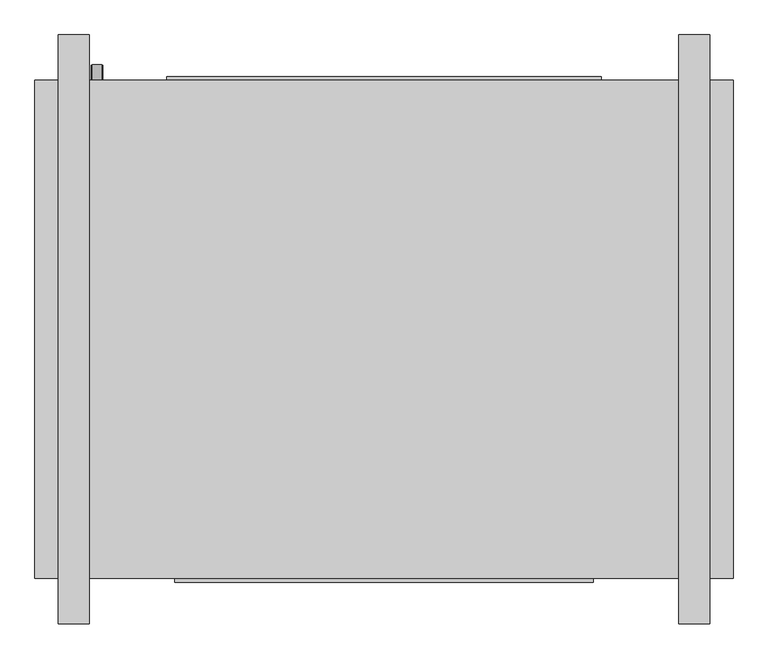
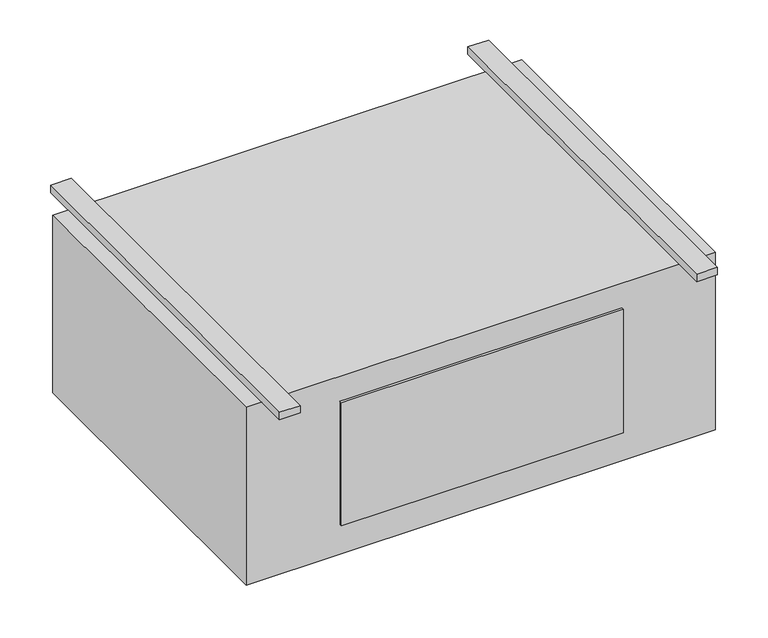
"""IFC4 building model written with IfcOpenShell, lengths in millimetres: proxy geometry, Exposed_High_Capacity_Horizontal_Cabinet_Fan_Coil_Unit_-_42DFA_-_CARRIER_-_4-Pipe_LH_2022 : Size 12 - 277v/60Hz/1Ph - 6/2 Coil."""

import ifcopenshell
import ifcopenshell.guid

model = None  # the IFC model being written
_history = None  # IfcOwnerHistory: only IFC2X3 demands one
_inside = {}  # id of a spatial element -> (the spatial element, [elements in it])
_under = {}  # id of a project, library or spatial element -> (it, [spatial elements below it])
_declared = {}  # id of a project -> (the project, [libraries it declares])
_typed = {}  # id of a type object -> (the type object, [elements of that type])
_made_of = {}  # id of a material, layer set ... -> (it, [elements and type objects made of it])


def new_model(schema):
    """Start an empty IFC model of exactly this schema.

    Asked for "IFC4X3", IfcOpenShell would pick the latest addendum, in which some entities
    have other attributes; the version numbers below select the first issue.
    IFC2X3 requires an IfcOwnerHistory on every rooted entity: one is made here for all.
    """
    global model, _history
    if schema == "IFC4X3":
        model = ifcopenshell.file(schema_version=(4, 3, 0, 0))
    else:
        model = ifcopenshell.file(schema=schema)
    _inside.clear()
    _under.clear()
    _declared.clear()
    _typed.clear()
    _made_of.clear()
    _history = None
    if model.schema == "IFC2X3":
        org = make("IfcOrganization", Name="unknown")
        user = make(
            "IfcPersonAndOrganization",
            ThePerson=make("IfcPerson", FamilyName="unknown"),
            TheOrganization=org,
        )
        app = make(
            "IfcApplication",
            ApplicationDeveloper=org,
            Version="unknown",
            ApplicationFullName="unknown",
            ApplicationIdentifier="unknown",
        )
        _history = make(
            "IfcOwnerHistory",
            OwningUser=user,
            OwningApplication=app,
            ChangeAction="ADDED",
            CreationDate=0,
        )
    return model


def make(cls, **values):
    """One entity of the class cls with the attributes given. An attribute that is None is left unset."""
    return model.create_entity(
        cls, **{name: value for name, value in values.items() if value is not None}
    )


def rooted(cls, **values):
    """An entity with a GlobalId (a new one), such as an element, a storey or a relation."""
    return make(cls, GlobalId=ifcopenshell.guid.new(), OwnerHistory=_history, **values)


def si_unit(unit_type, name, prefix=None):
    """IfcSIUnit, for example si_unit("LENGTHUNIT", "METRE", prefix="MILLI")."""
    return make("IfcSIUnit", UnitType=unit_type, Prefix=prefix, Name=name)


def assignment(units):
    """IfcUnitAssignment: the units of a project."""
    return None if units is None else make("IfcUnitAssignment", Units=units)


def point(xyz):
    """IfcCartesianPoint."""
    return None if xyz is None else make("IfcCartesianPoint", Coordinates=xyz)


def direction(xyz):
    """IfcDirection."""
    return None if xyz is None else make("IfcDirection", DirectionRatios=xyz)


def frame(location, z_axis=None, x_axis=None):
    """IfcAxis2Placement3D, a coordinate frame: its origin and axes. An axis left out is left unset."""
    return make(
        "IfcAxis2Placement3D",
        Location=point(location),
        Axis=direction(z_axis),
        RefDirection=direction(x_axis),
    )


def frame_2d(location, x_axis=None):
    """IfcAxis2Placement2D, a coordinate frame in the plane: its origin and x axis."""
    return make(
        "IfcAxis2Placement2D", Location=point(location), RefDirection=direction(x_axis)
    )


def origin():
    """The frame at (0, 0, 0) with its axes left unset."""
    return frame((0.0, 0.0, 0.0))


def origin_with_axes():
    """The frame at (0, 0, 0) with the z axis (0, 0, 1) and the x axis (1, 0, 0) written out."""
    return frame((0.0, 0.0, 0.0), z_axis=(0.0, 0.0, 1.0), x_axis=(1.0, 0.0, 0.0))


def place(relative_to, where):
    """IfcLocalPlacement: puts the frame where relative to a parent placement (None: the world)."""
    return make(
        "IfcLocalPlacement", PlacementRelTo=relative_to, RelativePlacement=where
    )


def context(
    kind, dimensions, precision=None, world=None, true_north=None, identifier=None
):
    """IfcGeometricRepresentationContext, for example the 3D "Model" context."""
    return make(
        "IfcGeometricRepresentationContext",
        ContextIdentifier=identifier,
        ContextType=kind,
        CoordinateSpaceDimension=dimensions,
        Precision=precision,
        WorldCoordinateSystem=world,
        TrueNorth=true_north,
    )


def project(units=None, contexts=None):
    """IfcProject with its units and contexts."""
    return rooted(
        "IfcProject",
        Name="project",
        RepresentationContexts=contexts,
        UnitsInContext=assignment(units),
    )


def spatial(cls, under=None, at=None, **own):
    """A site, building, storey or space (cls), placed at a placement, below another one or the project."""
    s = rooted(cls, ObjectPlacement=at, **own)
    if under is not None:
        _under.setdefault(under.id(), (under, []))[1].append(s)
    return s


def polyline(points):
    """IfcPolyline through the points."""
    return make("IfcPolyline", Points=[point(p) for p in points])


def circle_curve(where, radius):
    """IfcCircle in the frame where."""
    return make("IfcCircle", Position=where, Radius=radius)


def trimmed(basis, trim1, trim2, sense, master):
    """IfcTrimmedCurve: the piece of a basis curve between two trims."""
    return make(
        "IfcTrimmedCurve",
        BasisCurve=basis,
        Trim1=trim1,
        Trim2=trim2,
        SenseAgreement=sense,
        MasterRepresentation=master,
    )


def segment(curve, same_sense, transition):
    """IfcCompositeCurveSegment."""
    return make(
        "IfcCompositeCurveSegment",
        Transition=transition,
        SameSense=same_sense,
        ParentCurve=curve,
    )


def composite_curve(segments, self_intersect=None):
    """IfcCompositeCurve: segments joined end to end."""
    return make("IfcCompositeCurve", Segments=segments, SelfIntersect=self_intersect)


def outline(outer, holes=None, kind="AREA"):
    """IfcArbitraryClosedProfileDef: a profile drawn as a closed curve; with holes, ...WithVoids."""
    if holes is None:
        return make("IfcArbitraryClosedProfileDef", ProfileType=kind, OuterCurve=outer)
    return make(
        "IfcArbitraryProfileDefWithVoids",
        ProfileType=kind,
        OuterCurve=outer,
        InnerCurves=holes,
    )


def extrude(swept, where, along, depth):
    """IfcExtrudedAreaSolid: the profile swept, set in the frame where, extruded along a direction by depth."""
    return make(
        "IfcExtrudedAreaSolid",
        SweptArea=swept,
        Position=where,
        ExtrudedDirection=direction(along),
        Depth=depth,
    )


def shape(context_of_items, identifier, shape_type, items):
    """IfcShapeRepresentation: the items that make up one representation, for example the "Body"."""
    return make(
        "IfcShapeRepresentation",
        ContextOfItems=context_of_items,
        RepresentationIdentifier=identifier,
        RepresentationType=shape_type,
        Items=items,
    )


def source(mapping_origin, context_of_items, identifier, shape_type, items):
    """IfcRepresentationMap: a shape defined once, which mapped items show again and again."""
    return make(
        "IfcRepresentationMap",
        MappingOrigin=mapping_origin,
        MappedRepresentation=shape(context_of_items, identifier, shape_type, items),
    )


def transform(
    local_origin,
    x_axis=None,
    y_axis=None,
    z_axis=None,
    scale=None,
    scale2=None,
    scale3=None,
    uniform=True,
):
    """IfcCartesianTransformationOperator3D, or its non-uniform kind. x_axis, y_axis, z_axis: its Axis1, 2, 3."""
    if uniform:
        return make(
            "IfcCartesianTransformationOperator3D",
            Axis1=direction(x_axis),
            Axis2=direction(y_axis),
            LocalOrigin=point(local_origin),
            Scale=scale,
            Axis3=direction(z_axis),
        )
    return make(
        "IfcCartesianTransformationOperator3DnonUniform",
        Axis1=direction(x_axis),
        Axis2=direction(y_axis),
        LocalOrigin=point(local_origin),
        Scale=scale,
        Axis3=direction(z_axis),
        Scale2=scale2,
        Scale3=scale3,
    )


def mapped(mapping_source, mapping_target):
    """IfcMappedItem: shows the shape of a source again, moved by a transform."""
    return make(
        "IfcMappedItem", MappingSource=mapping_source, MappingTarget=mapping_target
    )


def made_of(thing, what):
    """Note that an element or type object is made of a material, layer set ...; save() writes the relation."""
    if what is not None:
        _made_of.setdefault(what.id(), (what, []))[1].append(thing)
    return thing


def element(
    cls,
    number,
    at=None,
    inside=None,
    cuts=None,
    type_object=None,
    material=None,
    context=None,
    identifier="Body",
    shape_type=None,
    held_by="IfcProductDefinitionShape",
    body=None,
    shapes=None,
    **own,
):
    """One element of the class cls, such as IfcWall. Its Tag is "e" and its number.

    at: its placement. inside: the storey or other place that contains it. cuts: it is an
    opening in that element (IfcRelVoidsElement). A single representation is given by context,
    identifier, shape_type and body (its items); several are given by shapes. held_by: the class
    of the entity that holds the representations. save() writes the other relations.
    """
    e = rooted(cls, Tag="e%d" % number, ObjectPlacement=at, **own)
    if body is not None:
        shapes = [shape(context, identifier, shape_type, body)]
    if shapes is not None:
        e.Representation = make(held_by, Representations=shapes)
    if inside is not None:
        _inside.setdefault(inside.id(), (inside, []))[1].append(e)
    if cuts is not None:
        rooted(
            "IfcRelVoidsElement", RelatingBuildingElement=cuts, RelatedOpeningElement=e
        )
    if type_object is not None:
        _typed.setdefault(type_object.id(), (type_object, []))[1].append(e)
    return made_of(e, material)


def aggregate(whole, parts):
    """IfcRelAggregates: a whole, such as a stair, and the parts it consists of."""
    return rooted("IfcRelAggregates", RelatingObject=whole, RelatedObjects=parts)


def save(model, path):
    """Write the relations noted so far, then the file.

    IfcRelAggregates (storeys below a building ...), IfcRelContainedInSpatialStructure (elements
    in a storey), IfcRelDefinesByType, IfcRelAssociatesMaterial and IfcRelDeclares: one each for
    every whole, place, type object, material and project.
    """
    for whole, parts in _under.values():
        aggregate(whole, parts)
    for where, things in _inside.values():
        rooted(
            "IfcRelContainedInSpatialStructure",
            RelatedElements=things,
            RelatingStructure=where,
        )
    for kind, things in _typed.values():
        rooted("IfcRelDefinesByType", RelatedObjects=things, RelatingType=kind)
    for what, things in _made_of.values():
        rooted("IfcRelAssociatesMaterial", RelatedObjects=things, RelatingMaterial=what)
    for by, libraries in _declared.values():
        rooted("IfcRelDeclares", RelatingContext=by, RelatedDefinitions=libraries)
    model.write(path)


def mechanical_equipment_b189dda4(model_context):
    return source(origin(), model_context, "Body", "SweptSolid", [
        extrude(outline(composite_curve([segment(trimmed(circle_curve(frame_2d((-406.4, -317.5)), 9.525), [point((-406.4, -327.025))], [point((-406.4, -307.975))], False, "CARTESIAN"), True, "CONTINUOUS"), segment(trimmed(circle_curve(frame_2d((-406.4, -317.5)), 9.525), [point((-406.4, -307.975))], [point((-406.4, -327.025))], False, "CARTESIAN"), True, "CONTINUOUS")], self_intersect=False)), frame((0.0, 169.8625, 0.0), z_axis=(0.0, 1.0, 0.0), x_axis=(0.0, 0.0, 1.0)), (0.0, 0.0, 1.0), 25.4),
        extrude(outline(composite_curve([segment(trimmed(circle_curve(frame_2d((-330.2, -317.5)), 7.9375), [point((-330.2, -325.4375))], [point((-330.2, -309.5625))], False, "CARTESIAN"), True, "CONTINUOUS"), segment(trimmed(circle_curve(frame_2d((-330.2, -317.5)), 7.9375), [point((-330.2, -309.5625))], [point((-330.2, -325.4375))], False, "CARTESIAN"), True, "CONTINUOUS")], self_intersect=False)), frame((0.0, 169.8625, 0.0), z_axis=(0.0, 1.0, 0.0), x_axis=(0.0, 0.0, 1.0)), (0.0, 0.0, 1.0), 25.4),
        extrude(outline(composite_curve([segment(trimmed(circle_curve(frame_2d((-254.0, -317.5)), 7.9375), [point((-254.0, -325.4375))], [point((-254.0, -309.5625))], False, "CARTESIAN"), True, "CONTINUOUS"), segment(trimmed(circle_curve(frame_2d((-254.0, -317.5)), 7.9375), [point((-254.0, -309.5625))], [point((-254.0, -325.4375))], False, "CARTESIAN"), True, "CONTINUOUS")], self_intersect=False)), frame((0.0, 169.8625, 0.0), z_axis=(0.0, 1.0, 0.0), x_axis=(0.0, 0.0, 1.0)), (0.0, 0.0, 1.0), 25.4),
        extrude(outline(composite_curve([segment(trimmed(circle_curve(frame_2d((-177.8, -317.5)), 7.9375), [point((-177.8, -325.4375))], [point((-177.8, -309.5625))], False, "CARTESIAN"), True, "CONTINUOUS"), segment(trimmed(circle_curve(frame_2d((-177.8, -317.5)), 7.9375), [point((-177.8, -309.5625))], [point((-177.8, -325.4375))], False, "CARTESIAN"), True, "CONTINUOUS")], self_intersect=False)), frame((0.0, 169.8625, 0.0), z_axis=(0.0, 1.0, 0.0), x_axis=(0.0, 0.0, 1.0)), (0.0, 0.0, 1.0), 25.4),
        extrude(outline(composite_curve([segment(trimmed(circle_curve(frame_2d((-101.6, -317.5)), 7.9375), [point((-101.6, -325.4375))], [point((-101.6, -309.5625))], False, "CARTESIAN"), True, "CONTINUOUS"), segment(trimmed(circle_curve(frame_2d((-101.6, -317.5)), 7.9375), [point((-101.6, -309.5625))], [point((-101.6, -325.4375))], False, "CARTESIAN"), True, "CONTINUOUS")], self_intersect=False)), frame((0.0, 169.8625, 0.0), z_axis=(0.0, 1.0, 0.0), x_axis=(0.0, 0.0, 1.0)), (0.0, 0.0, 1.0), 25.4),
        extrude(outline(polyline([(723.9, 169.8625), (723.9, -646.1125), (-419.1, -646.1125), (-419.1, 169.8625), (723.9, 169.8625)])), frame((0.0, 0.0, -457.2), z_axis=(0.0, 0.0, 1.0), x_axis=(1.0, 0.0, 0.0)), (0.0, 0.0, 1.0), 457.2),
        extrude(outline(polyline([(-203.2, 176.2125), (508.0, 176.2125), (508.0, 169.8625), (-203.2, 169.8625), (-203.2, 176.2125)])), frame((0.0, 0.0, -381.0), z_axis=(0.0, 0.0, 1.0), x_axis=(1.0, 0.0, 0.0)), (0.0, 0.0, 1.0), 355.6),
        extrude(outline(polyline([(-330.2, 244.475), (-330.2, -720.725), (-381.0, -720.725), (-381.0, 244.475), (-330.2, 244.475)])), origin_with_axes(), (0.0, 0.0, 1.0), 19.05),
        extrude(outline(polyline([(685.8, 244.475), (685.8, -720.725), (635.0, -720.725), (635.0, 244.475), (685.8, 244.475)])), origin_with_axes(), (0.0, 0.0, 1.0), 19.05),
        extrude(outline(polyline([(495.3, -652.4625), (-190.5, -652.4625), (-190.5, -646.1125), (495.3, -646.1125), (495.3, -652.4625)])), frame((0.0, 0.0, -381.0), z_axis=(0.0, 0.0, 1.0), x_axis=(1.0, 0.0, 0.0)), (0.0, 0.0, 1.0), 317.5),
    ])


if __name__ == "__main__":
    model = new_model("IFC4")
    model_context = context("Model", 3, world=origin())
    ifc_project = project(units=[si_unit("LENGTHUNIT", "METRE", prefix="MILLI")], contexts=[model_context])
    site = spatial("IfcSite", under=ifc_project)
    building = spatial("IfcBuilding", under=site)
    placement = place(None, origin())
    mechanical_equipment_shape = mechanical_equipment_b189dda4(model_context)
    element("IfcBuildingElementProxy", 1, Name="Exposed_High_Capacity_Horizontal_Cabinet_Fan_Coil_Unit_-_42DFA_-_CARRIER_-_4-Pipe_LH_2022 : Size 12 - 277v/60Hz/1Ph - 6/2 Coil", ObjectType="Exposed_High_Capacity_Horizontal_Cabinet_Fan_Coil_Unit_-_42DFA_-_CARRIER_-_4-Pipe_LH_2022 : Size 12 - 277v/60Hz/1Ph - 6/2 Coil", at=placement, inside=building, context=model_context, shape_type="MappedRepresentation", body=[
        mapped(mechanical_equipment_shape, transform((0.0, 0.0, 0.0), x_axis=(1.0, 0.0, 0.0), y_axis=(0.0, 1.0, 0.0), z_axis=(0.0, 0.0, 1.0))),
    ])
    save(model, "model.ifc")
